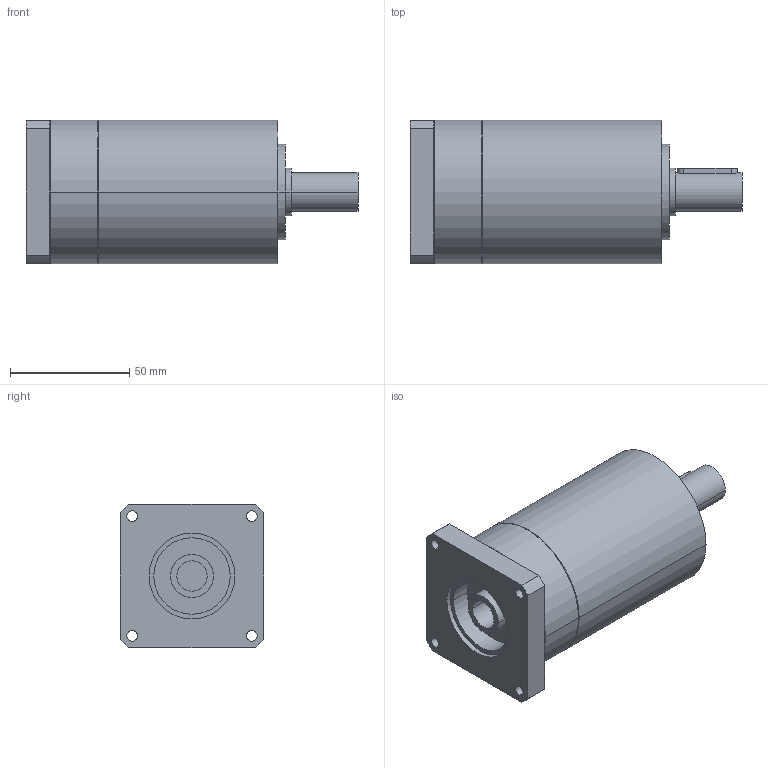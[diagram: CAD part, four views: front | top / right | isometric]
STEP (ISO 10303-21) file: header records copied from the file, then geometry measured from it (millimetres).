
FILE_DESCRIPTION(('CoCreate Modeling STEP Export'),'2;1');
FILE_NAME('GPR75_ig-9-12-16-20-24-30-36_16_B14_12.7_P22.stp','2014-08-25T16:01:55',(''),(''),'CoCreate Modeling STEP processor for AP214 (Solid Model)','CoCreate Modeling 16.00C 25-Feb-2009 (C) Parametric Technology GmbH','');
FILE_SCHEMA(('AUTOMOTIVE_DESIGN { 1 0 10303 214 1 1 1 1 }'));
Length unit declared in the file: millimetre
Products named in the file (2): GPR75_ig-9-12-16-20-24-30-36_16_B14_12.7_P22
Assembly tree (1 placements, depth 2):
  GPR75_ig-9-12-16-20-24-30-36_16_B14_12.7_P22
    GPR75_ig-9-12-16-20-24-30-36_16_B14_12.7_P22
Bounding box: 139 x 60 x 60 mm (x, y, z)
Volume: 303890.9 mm3; surface area: 37307.6 mm2
Topology: 1 solids, 1 shells, 73 faces, 195 edges, 137 vertices
Faces by surface type: cylinder 44, plane 23, cone 6
Entity records: 2009 total; most frequent: ORIENTED_EDGE 386, CARTESIAN_POINT 371, DIRECTION 272, EDGE_CURVE 193, VERTEX_POINT 137, AXIS2_PLACEMENT_3D 102, EDGE_LOOP 96, FACE_OUTER_BOUND 73
